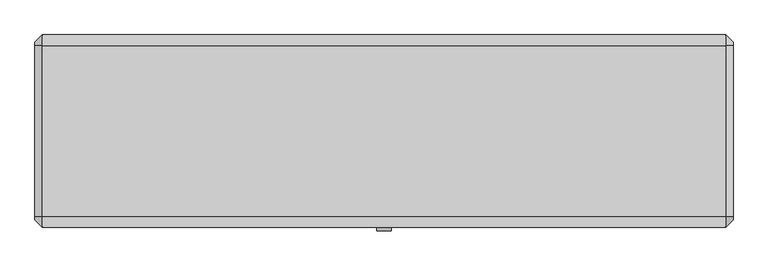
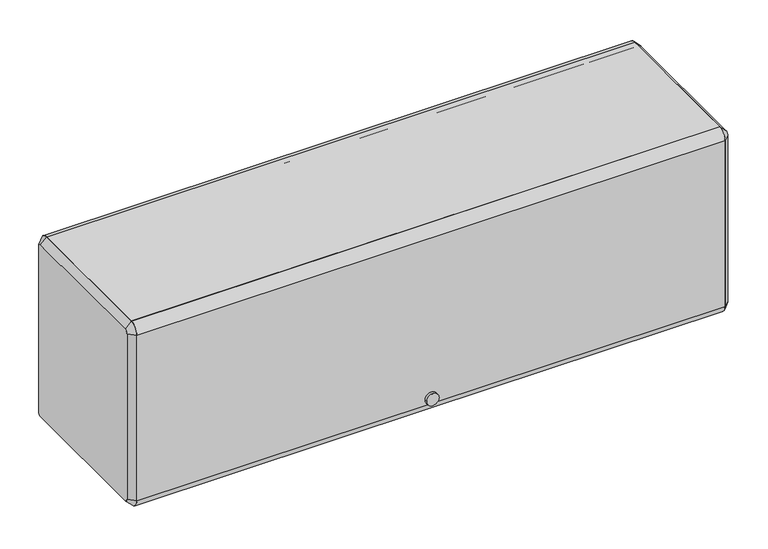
"""IFC4 building model written with IfcOpenShell, lengths in millimetres: furniture geometry."""

from ifc_helpers import new_model, si_unit, point, frame, frame_2d, origin, place, context, project, spatial, polyline, circle_curve, trimmed, segment, composite_curve, outline, extrude, source, transform, mapped, element, save
from ifc_brep_helpers import plane_surface, revolved_surface, advanced_brep


def furniture_18c0875b(model_context):
    return source(origin(), model_context, "Body", "SolidModel", [
        extrude(outline(composite_curve([segment(polyline([(-136.525, 2068.59378), (-136.525, 2081.29378), (161.925, 2081.29378)]), True, "CONTINUOUS"), segment(trimmed(circle_curve(frame_2d((161.925, 2062.24378)), 19.05), [point((161.925, 2081.29378))], [point((180.975, 2062.24378))], False, "CARTESIAN"), True, "CONTINUOUS"), segment(polyline([(180.975, 2062.24378), (168.275, 2062.24378)]), True, "CONTINUOUS"), segment(trimmed(circle_curve(frame_2d((161.925, 2062.24378)), 6.35), [point((168.275, 2062.24378))], [point((161.925, 2068.59378))], True, "CARTESIAN"), True, "CONTINUOUS"), segment(polyline([(161.925, 2068.59378), (-136.525, 2068.59378)]), True, "CONTINUOUS")], self_intersect=False)), frame((-596.9, 0.0, 0.0), z_axis=(1.0, 0.0, 0.0), x_axis=(0.0, 1.0, 0.0)), (0.0, 0.0, 1.0), 1193.8),
        extrude(outline(composite_curve([segment(trimmed(circle_curve(frame_2d((-136.525, 2062.24378)), 19.05), [point((-155.575, 2062.24378))], [point((-136.525, 2081.29378))], False, "CARTESIAN"), True, "CONTINUOUS"), segment(polyline([(-136.525, 2081.29378), (-136.525, 2068.59378)]), True, "CONTINUOUS"), segment(trimmed(circle_curve(frame_2d((-136.525, 2062.24378)), 6.35), [point((-136.525, 2068.59378))], [point((-142.875, 2062.24378))], True, "CARTESIAN"), True, "CONTINUOUS"), segment(polyline([(-142.875, 2062.24378), (-142.875, 1706.64378)]), True, "CONTINUOUS"), segment(trimmed(circle_curve(frame_2d((-136.525, 1706.64378)), 6.35), [point((-142.875, 1706.64378))], [point((-136.525, 1700.29378))], True, "CARTESIAN"), True, "CONTINUOUS"), segment(polyline([(-136.525, 1700.29378), (-136.525, 1687.59378)]), True, "CONTINUOUS"), segment(trimmed(circle_curve(frame_2d((-136.525, 1706.64378)), 19.05), [point((-136.525, 1687.59378))], [point((-155.575, 1706.64378))], False, "CARTESIAN"), True, "CONTINUOUS"), segment(polyline([(-155.575, 1706.64378), (-155.575, 2062.24378)]), True, "CONTINUOUS")], self_intersect=False)), frame((-596.9, 0.0, 0.0), z_axis=(1.0, 0.0, 0.0), x_axis=(0.0, 1.0, 0.0)), (0.0, 0.0, 1.0), 1193.8),
        extrude(outline(composite_curve([segment(trimmed(circle_curve(frame_2d((1719.3056706, 0.0201199)), 12.7253951), [point((1719.3056706, 12.745515))], [point((1719.3056706, -12.7052752))], False, "CARTESIAN"), True, "CONTINUOUS"), segment(trimmed(circle_curve(frame_2d((1719.3056706, 0.0201199)), 12.7253951), [point((1719.3056706, -12.7052752))], [point((1719.3056706, 12.745515))], False, "CARTESIAN"), True, "CONTINUOUS")], self_intersect=False)), frame((0.0, -161.925, 0.0), z_axis=(0.0, 1.0, 0.0), x_axis=(0.0, 0.0, 1.0)), (0.0, 0.0, 1.0), 6.35),
        extrude(outline(polyline([(-136.525, 1725.69378), (161.925, 1725.69378), (161.925, 1763.79378), (174.625, 1763.79378), (174.625, 1760.61878), (165.1, 1760.61878), (165.1, 1722.51878), (-133.35, 1722.51878), (-133.35, 1703.46878), (-136.525, 1703.46878), (-136.525, 1725.69378)])), frame((-596.9, 0.0, 0.0), z_axis=(1.0, 0.0, 0.0), x_axis=(0.0, 1.0, 0.0)), (0.0, 0.0, 1.0), 1193.8),
        advanced_brep(
        [(609.6, 161.925, 2068.59378), (609.6, -136.525, 2068.59378), (609.6, -142.875, 2062.24378), (609.6, -142.875, 1706.64378), (609.6, -136.525, 1700.29378), (609.6, 161.925, 1700.29378), (609.6, 168.275, 1706.64378), (609.6, 168.275, 2062.24378), (596.9, 161.925, 2081.29378), (596.9, 180.975, 2062.24378), (596.9, 180.975, 1706.64378), (596.9, 161.925, 1687.59378), (596.9, -136.525, 1687.59378), (596.9, -155.575, 1706.64378), (596.9, -155.575, 2062.24378), (596.9, -136.525, 2081.29378)],
        [
            (0, 1),
            (1, 2, circle_curve(frame((609.6, -136.525, 2062.24378), z_axis=(1.0, 6.4908078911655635e-12, -6.5867311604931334e-12), x_axis=(6.586694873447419e-12, 0.0, 1.0)), 6.35)),
            (2, 3),
            (3, 4, circle_curve(frame((609.6, -136.525, 1706.64378), z_axis=(1.0, 3.3733016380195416e-12, 3.3679725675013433e-12), x_axis=(3.3733436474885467e-12, -1.0, 0.0)), 6.35)),
            (4, 5),
            (5, 6, circle_curve(frame((609.6, 161.925, 1706.64378), z_axis=(1.0, 3.37863070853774e-12, -3.3892888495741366e-12), x_axis=(-3.389358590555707e-12, 0.0, -1.0)), 6.35)),
            (6, 7),
            (7, 0, circle_curve(frame((609.6, 161.925, 2062.24378), z_axis=(1.0, 6.4828142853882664e-12, 6.416200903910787e-12), x_axis=(-6.482754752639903e-12, 1.0, 0.0)), 6.35)),
            (8, 9, circle_curve(frame((596.9, 161.925, 2062.24378), z_axis=(-1.0, -6.4828142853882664e-12, -6.416200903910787e-12), x_axis=(-6.482754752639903e-12, 1.0, 0.0)), 19.05)),
            (9, 10),
            (10, 11, circle_curve(frame((596.9, 161.925, 1706.64378), z_axis=(-1.0, -3.37863070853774e-12, 3.3892888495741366e-12), x_axis=(-3.389358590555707e-12, 0.0, -1.0)), 19.05)),
            (11, 12),
            (12, 13, circle_curve(frame((596.9, -136.525, 1706.64378), z_axis=(-1.0, -3.3733016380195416e-12, -3.3679725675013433e-12), x_axis=(3.3733436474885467e-12, -1.0, 0.0)), 19.05)),
            (13, 14),
            (14, 15, circle_curve(frame((596.9, -136.525, 2062.24378), z_axis=(-1.0, -6.4908078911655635e-12, 6.5867311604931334e-12), x_axis=(6.586694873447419e-12, 0.0, 1.0)), 19.05)),
            (15, 8),
            (15, 1),
            (0, 8),
            (14, 2),
            (13, 3),
            (12, 4),
            (11, 5),
            (10, 6),
            (9, 7),
        ],
        [
            plane_surface(frame((609.6, 12.7, 1884.44378), z_axis=(1.0, 0.0, 0.0), x_axis=(0.0, -1.0, 0.0))),
            plane_surface(frame((596.9, 12.7, 1884.44378), z_axis=(-1.0, 0.0, 0.0), x_axis=(0.0, -1.0, 0.0))),
            plane_surface(frame((596.9, 12.7, 2081.29378), z_axis=(0.7071067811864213, 0.0, 0.7071067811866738), x_axis=(0.0, -1.0, 0.0))),
            revolved_surface(polyline([(609.6000000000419, -136.525, 2068.593779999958), (596.9, -136.525, 2081.29378)]), (615.95, -136.525, 2062.24378), (-1.0, -6.4908078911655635e-12, 6.5867311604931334e-12)),
            plane_surface(frame((596.9, -155.575, 1884.44378), z_axis=(0.7071067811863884, -0.7071067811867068, 0.0), x_axis=(0.0, 0.0, -1.0))),
            revolved_surface(polyline([(609.6000000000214, -142.87499999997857, 1706.64378), (596.9, -155.575, 1706.64378)]), (615.95, -136.525, 1706.64378), (-1.0, -3.3733016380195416e-12, -3.3679725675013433e-12)),
            plane_surface(frame((596.9, 12.7, 1687.59378), z_axis=(0.7071067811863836, 0.0, -0.7071067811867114), x_axis=(0.0, 1.0, 0.0))),
            revolved_surface(polyline([(609.6, 161.925, 1700.29378), (596.8999999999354, 161.925, 1687.5937799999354)]), (615.95, 161.925, 1706.64378), (-1.0, -3.37863070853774e-12, 3.3892888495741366e-12)),
            plane_surface(frame((596.9, 180.975, 1884.44378), z_axis=(0.7071067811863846, 0.7071067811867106, 0.0), x_axis=(0.0, 0.0, 1.0))),
            revolved_surface(polyline([(609.6, 168.275, 2062.24378), (596.8999999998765, 180.9750000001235, 2062.24378)]), (615.95, 161.925, 2062.24378), (-1.0, -6.4828142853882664e-12, -6.416200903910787e-12)),
        ],
        [
            (0, [[1, 2, 3, 4, 5, 6, 7, 8]]),
            (1, [[9, 10, 11, 12, 13, 14, 15, 16]]),
            (2, [[-16, 17, -1, 18]]),
            (3, [[-15, 19, -2, -17]]),
            (4, [[-14, 20, -3, -19]]),
            (5, [[-13, 21, -4, -20]]),
            (6, [[-12, 22, -5, -21]]),
            (7, [[-11, 23, -6, -22]]),
            (8, [[-10, 24, -7, -23]]),
            (9, [[-9, -18, -8, -24]]),
        ],
    ),
        advanced_brep(
        [(-609.6, -136.525, 2068.59378), (-609.6, 161.925, 2068.59378), (-609.6, 168.275, 2062.24378), (-609.6, 168.275, 1706.64378), (-609.6, 161.925, 1700.29378), (-609.6, -136.525, 1700.29378), (-609.6, -142.875, 1706.64378), (-609.6, -142.875, 2062.24378), (-596.9, -136.525, 2081.29378), (-596.9, -155.575, 2062.24378), (-596.9, -155.575, 1706.64378), (-596.9, -136.525, 1687.59378), (-596.9, 161.925, 1687.59378), (-596.9, 180.975, 1706.64378), (-596.9, 180.975, 2062.24378), (-596.9, 161.925, 2081.29378)],
        [
            (0, 1),
            (1, 2, circle_curve(frame((-609.6, 161.925, 2062.24378), z_axis=(-1.0, 3.365308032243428e-12, 3.453237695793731e-12), x_axis=(3.4532613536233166e-12, 0.0, 1.0)), 6.35)),
            (2, 3),
            (3, 4, circle_curve(frame((-609.6, 161.925, 1706.64378), z_axis=(-1.0, 0.0, 0.0), x_axis=(0.0, 1.0, 0.0)), 6.35)),
            (4, 5),
            (5, 6, circle_curve(frame((-609.6, -136.525, 1706.64378), z_axis=(-1.0, 0.0, 0.0), x_axis=(0.0, 0.0, -1.0)), 6.35)),
            (6, 7),
            (7, 0, circle_curve(frame((-609.6, -136.525, 2062.24378), z_axis=(-1.0, 3.3839597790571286e-12, -3.3253400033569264e-12), x_axis=(-3.38402027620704e-12, -1.0, 0.0)), 6.35)),
            (8, 9, circle_curve(frame((-596.9, -136.525, 2062.24378), z_axis=(1.0, -3.3839597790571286e-12, 3.3253400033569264e-12), x_axis=(-3.38402027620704e-12, -1.0, 0.0)), 19.05)),
            (9, 10),
            (10, 11, circle_curve(frame((-596.9, -136.525, 1706.64378), z_axis=(1.0, 0.0, 0.0), x_axis=(0.0, 0.0, -1.0)), 19.05)),
            (11, 12),
            (12, 13, circle_curve(frame((-596.9, 161.925, 1706.64378), z_axis=(1.0, 0.0, 0.0), x_axis=(0.0, 1.0, 0.0)), 19.05)),
            (13, 14),
            (14, 15, circle_curve(frame((-596.9, 161.925, 2062.24378), z_axis=(1.0, -3.365308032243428e-12, -3.453237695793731e-12), x_axis=(3.4532613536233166e-12, 0.0, 1.0)), 19.05)),
            (15, 8),
            (15, 1),
            (0, 8),
            (14, 2),
            (13, 3),
            (12, 4),
            (11, 5),
            (10, 6),
            (9, 7),
        ],
        [
            plane_surface(frame((-609.6, 12.7, 1884.44378), z_axis=(-1.0, 0.0, 0.0), x_axis=(0.0, -1.0, 0.0))),
            plane_surface(frame((-596.9, 12.7, 1884.44378), z_axis=(1.0, 0.0, 0.0), x_axis=(0.0, -1.0, 0.0))),
            plane_surface(frame((-596.9, 12.7, 2081.29378), z_axis=(-0.7071067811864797, 0.0, 0.7071067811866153), x_axis=(0.0, 1.0, 0.0))),
            revolved_surface(polyline([(-609.6, 161.925, 2068.5937799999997), (-596.8999999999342, 161.925, 2081.293780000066)]), (-615.95, 161.925, 2062.24378), (1.0, -3.365308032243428e-12, -3.453237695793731e-12)),
            plane_surface(frame((-596.9, 180.975, 1884.44378), z_axis=(-0.7071067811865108, 0.7071067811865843, 0.0), x_axis=(0.0, 0.0, -1.0))),
            revolved_surface(polyline([(-609.6, 168.275, 1706.64378), (-596.9, 180.975, 1706.64378)]), (-615.95, 161.925, 1706.64378), (1.0, 0.0, 0.0)),
            plane_surface(frame((-596.9, 12.7, 1687.59378), z_axis=(-0.7071067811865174, 0.0, -0.7071067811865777), x_axis=(0.0, -1.0, 0.0))),
            revolved_surface(polyline([(-609.6, -136.525, 1700.29378), (-596.9, -136.525, 1687.59378)]), (-615.95, -136.525, 1706.64378), (1.0, 0.0, 0.0)),
            plane_surface(frame((-596.9, -155.575, 1884.44378), z_axis=(-0.7071067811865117, -0.7071067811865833, 0.0), x_axis=(0.0, 0.0, 1.0))),
            revolved_surface(polyline([(-609.6000000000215, -142.8749999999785, 2062.24378), (-596.9, -155.575, 2062.24378)]), (-615.95, -136.525, 2062.24378), (1.0, -3.3839597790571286e-12, 3.3253400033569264e-12)),
        ],
        [
            (0, [[1, 2, 3, 4, 5, 6, 7, 8]]),
            (1, [[9, 10, 11, 12, 13, 14, 15, 16]]),
            (2, [[-16, 17, -1, 18]]),
            (3, [[-15, 19, -2, -17]]),
            (4, [[-14, 20, -3, -19]]),
            (5, [[-13, 21, -4, -20]]),
            (6, [[-12, 22, -5, -21]]),
            (7, [[-11, 23, -6, -22]]),
            (8, [[-10, 24, -7, -23]]),
            (9, [[-9, -18, -8, -24]]),
        ],
    ),
    ])


if __name__ == "__main__":
    model = new_model("IFC4")
    model_context = context("Model", 3, world=origin())
    ifc_project = project(units=[si_unit("LENGTHUNIT", "METRE", prefix="MILLI")], contexts=[model_context])
    site = spatial("IfcSite", under=ifc_project)
    building = spatial("IfcBuilding", under=site)
    placement = place(None, origin())
    furniture_shape = furniture_18c0875b(model_context)
    element("IfcFurniture", 1, ObjectType="HermanMiller_ActionOffice_A3352_B-StyleFlipperDoorUnit : 15 1/2\"H x 13\"D x 48\"W", at=placement, inside=building, context=model_context, shape_type="MappedRepresentation", body=[
        mapped(furniture_shape, transform((0.0, 0.0, 0.0), x_axis=(1.0, 0.0, 0.0), y_axis=(0.0, 1.0, 0.0), z_axis=(0.0, 0.0, 1.0))),
    ])
    save(model, "model.ifc")
